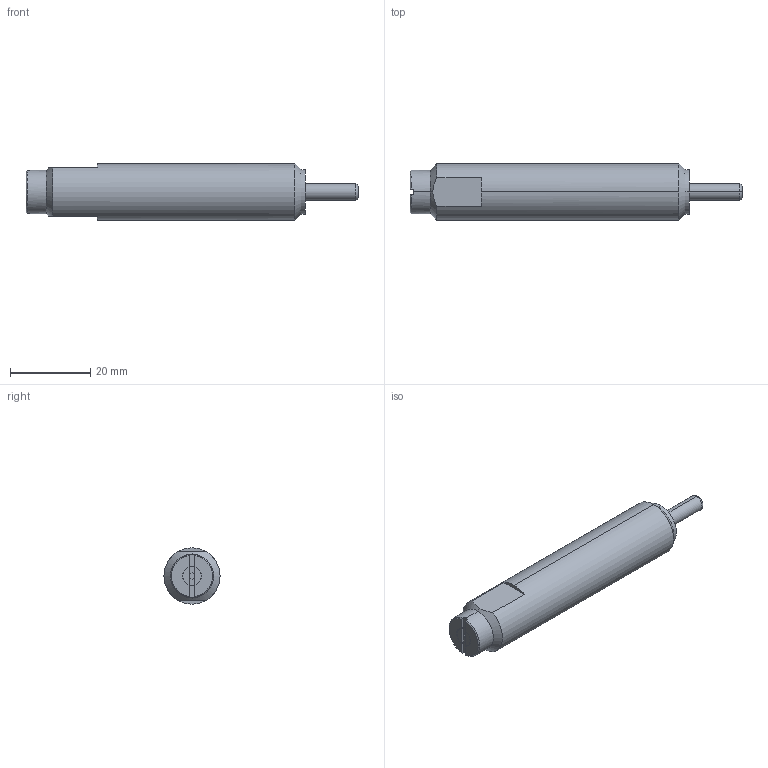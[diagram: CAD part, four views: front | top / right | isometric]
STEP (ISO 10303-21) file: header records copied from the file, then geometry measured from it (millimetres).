
FILE_DESCRIPTION (( 'STEP AP214' ), '1' );
FILE_NAME ('ES18983F-BN.STEP', '2019-12-05T08:11:13', ( 'user' ), ( 'Microsoft' ), 'SwSTEP 2.0', 'SolidWorks 2016', '' );
FILE_SCHEMA (( 'AUTOMOTIVE_DESIGN' ));
Length unit declared in the file: millimetre
Products named in the file (1): ES18983F-BN
Bounding box: 82.7 x 14 x 14 mm (x, y, z)
Volume: 10258.5 mm3; surface area: 3445.9 mm2
Topology: 1 solids, 1 shells, 51 faces, 130 edges, 84 vertices
Faces by surface type: plane 31, cylinder 12, cone 6, torus 2
Entity records: 1612 total; most frequent: CARTESIAN_POINT 322, DIRECTION 268, ORIENTED_EDGE 260, EDGE_CURVE 130, AXIS2_PLACEMENT_3D 98, VERTEX_POINT 84, LINE 72, VECTOR 72
